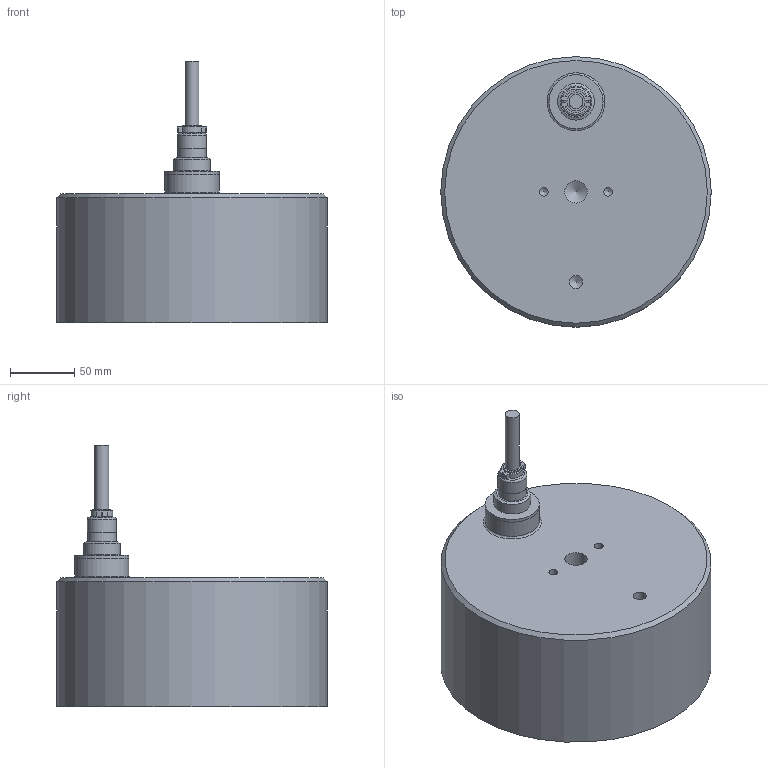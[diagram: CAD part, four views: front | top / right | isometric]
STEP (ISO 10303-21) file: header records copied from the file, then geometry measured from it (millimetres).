
FILE_DESCRIPTION(/* description */ (''),/* implementation_level */ '2;1');
FILE_NAME(/* name */ 'EMH-1-210Dx100H-V.step',/* time_stamp */ '2023-12-15T14:41:03+09:00',/* author */ (''),/* organization */ (''),/* preprocessor_version */ 'ST-DEVELOPER v20',/* originating_system */ 'Autodesk Translation Framework v12.14.0.127',/* authorisation */ '');
FILE_SCHEMA (('AUTOMOTIVE_DESIGN { 1 0 10303 214 3 1 1 }'));
Length unit declared in the file: millimetre
Products named in the file (7): EMH-1-210Dx100H-V; BODY; BOX-SFB8-30; NCS-252-R; Cable; NCS-252-P; BODY_1
Assembly tree (7 placements, depth 4):
  EMH-1-210Dx100H-V
    BODY
      BOX-SFB8-30  x2
      NCS-252-R
    Cable
      NCS-252-P
        BODY_1
Bounding box: 210 x 210 x 203 mm (x, y, z)
Volume: 3487173.5 mm3; surface area: 158171.3 mm2
Topology: 8 solids, 8 shells, 131 faces, 265 edges, 168 vertices
Faces by surface type: plane 66, cylinder 42, cone 18, torus 3, bspline 2
Full cylindrical faces by diameter (mm): 3.1 x2, 4 x2, 6.779 x6, 8 x2, 10 x3, 10.8 x1, 14 x1, 15.73 x2, 17.519 x1, 21.4 x1, 22 x2, 22.6 x1, 24.884 x1, 25 x3, 28.5 x1, 42 x2, 90 x1, 189 x1, 210 x1
Entity records: 3155 total; most frequent: DIRECTION 569, CARTESIAN_POINT 531, ORIENTED_EDGE 424, AXIS2_PLACEMENT_3D 233, EDGE_CURVE 212, VERTEX_POINT 141, EDGE_LOOP 139, FACE_OUTER_BOUND 112
